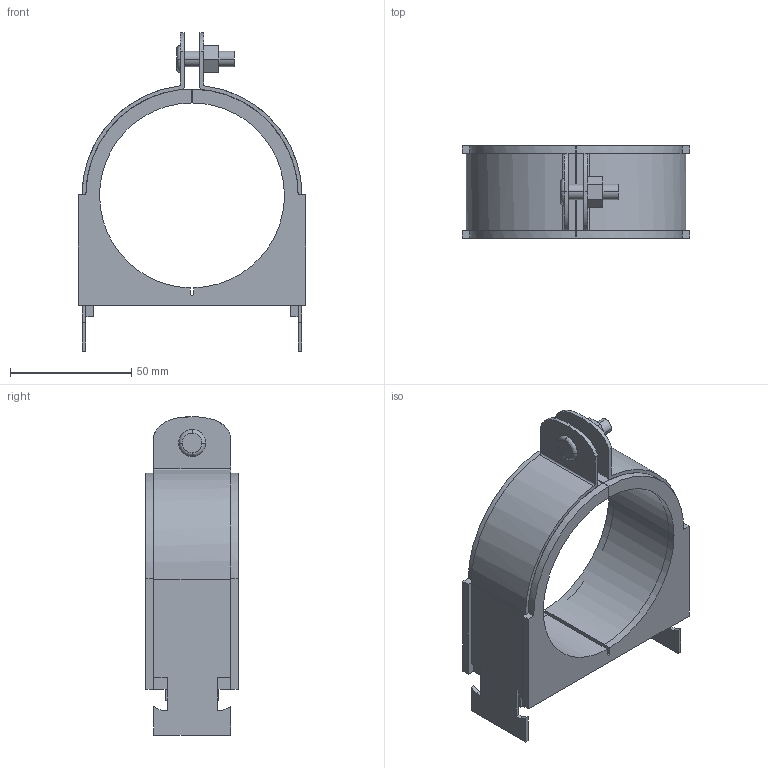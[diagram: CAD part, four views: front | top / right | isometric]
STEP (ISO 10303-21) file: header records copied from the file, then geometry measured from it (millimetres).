
FILE_DESCRIPTION(('TurboCAD Mac Pro'),'Build 980');
FILE_NAME('050N054.stp',' ',(''),(''),'ACIS Interop','IMSI','TurboCAD Mac Pro BY IMSI, INCORPORATED');
FILE_SCHEMA(('automotive_design'));
Length unit declared in the file: inch
Products named in the file (3): 1; 2; 3
Bounding box: 93.86 x 38.1 x 131.31 mm (x, y, z)
Volume: 109892.9 mm3; surface area: 48576.8 mm2
Topology: 3 solids, 3 shells, 150 faces, 384 edges, 244 vertices
Faces by surface type: plane 104, bspline 46
Entity records: 6662 total; most frequent: CARTESIAN_POINT 1735, ORIENTED_EDGE 768, DIRECTION 498, EDGE_CURVE 384, LINE 276, VECTOR 276, VERTEX_POINT 244, STYLED_ITEM 229
